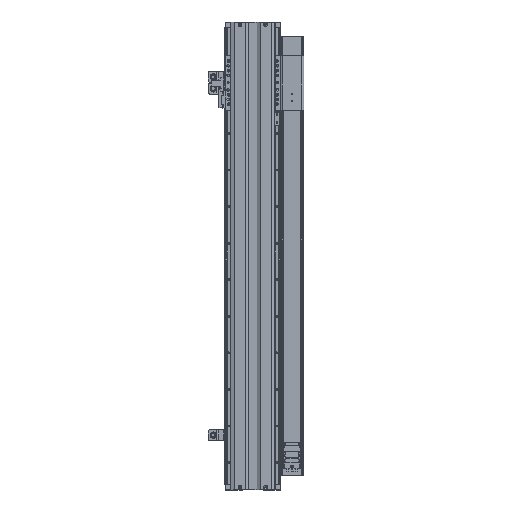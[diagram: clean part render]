
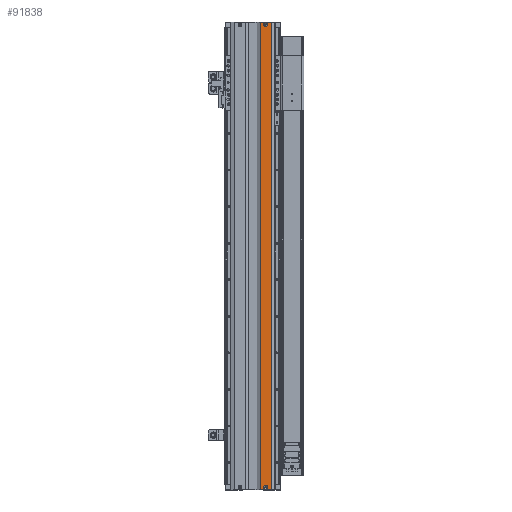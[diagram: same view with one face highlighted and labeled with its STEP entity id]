
A CAD part, top view. The second image highlights one B-rep face of the part: STEP entity #91838.
In plain terms, the highlighted planar face has unit normal (0, 0, 1).
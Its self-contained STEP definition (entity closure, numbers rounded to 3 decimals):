
#4751=FACE_BOUND('',#14526,.T.);
#4752=FACE_BOUND('',#14527,.T.);
#5651=PLANE('',#99017);
#9142=FACE_OUTER_BOUND('',#14525,.T.);
#14525=EDGE_LOOP('',(#66969,#66970,#66971,#66972));
#14526=EDGE_LOOP('',(#66973,#66974));
#14527=EDGE_LOOP('',(#66975,#66976));
#20425=LINE('',#137993,#28978);
#20433=LINE('',#138009,#28986);
#20443=LINE('',#138027,#28996);
#20446=LINE('',#138033,#28999);
#28978=VECTOR('',#111776,10.);
#28986=VECTOR('',#111790,10.);
#28996=VECTOR('',#111804,10.);
#28999=VECTOR('',#111813,10.);
#37160=CIRCLE('',#98965,5.2);
#37161=CIRCLE('',#98966,5.2);
#37168=CIRCLE('',#98976,5.2);
#37169=CIRCLE('',#98977,5.2);
#41339=VERTEX_POINT('',#137865);
#41340=VERTEX_POINT('',#137866);
#41347=VERTEX_POINT('',#137887);
#41348=VERTEX_POINT('',#137888);
#41386=VERTEX_POINT('',#137990);
#41387=VERTEX_POINT('',#137992);
#41391=VERTEX_POINT('',#138006);
#41392=VERTEX_POINT('',#138008);
#50767=EDGE_CURVE('',#41339,#41340,#37160,.T.);
#50768=EDGE_CURVE('',#41340,#41339,#37161,.T.);
#50778=EDGE_CURVE('',#41347,#41348,#37168,.T.);
#50779=EDGE_CURVE('',#41348,#41347,#37169,.T.);
#50830=EDGE_CURVE('',#41386,#41387,#20425,.T.);
#50838=EDGE_CURVE('',#41392,#41391,#20433,.T.);
#50848=EDGE_CURVE('',#41386,#41392,#20443,.T.);
#50851=EDGE_CURVE('',#41391,#41387,#20446,.T.);
#66969=ORIENTED_EDGE('',*,*,#50848,.T.);
#66970=ORIENTED_EDGE('',*,*,#50838,.T.);
#66971=ORIENTED_EDGE('',*,*,#50851,.T.);
#66972=ORIENTED_EDGE('',*,*,#50830,.F.);
#66973=ORIENTED_EDGE('',*,*,#50767,.T.);
#66974=ORIENTED_EDGE('',*,*,#50768,.T.);
#66975=ORIENTED_EDGE('',*,*,#50778,.T.);
#66976=ORIENTED_EDGE('',*,*,#50779,.T.);
#91838=ADVANCED_FACE('',(#9142,#4751,#4752),#5651,.T.);
#98965=AXIS2_PLACEMENT_3D('',#137867,#111657,#111658);
#98966=AXIS2_PLACEMENT_3D('',#137868,#111659,#111660);
#98976=AXIS2_PLACEMENT_3D('',#137889,#111682,#111683);
#98977=AXIS2_PLACEMENT_3D('',#137890,#111684,#111685);
#99017=AXIS2_PLACEMENT_3D('',#138041,#111825,#111826);
#111657=DIRECTION('center_axis',(0.,0.,-1.));
#111658=DIRECTION('ref_axis',(-1.,0.,0.));
#111659=DIRECTION('center_axis',(0.,0.,-1.));
#111660=DIRECTION('ref_axis',(-1.,0.,0.));
#111682=DIRECTION('center_axis',(0.,0.,-1.));
#111683=DIRECTION('ref_axis',(-1.,0.,0.));
#111684=DIRECTION('center_axis',(0.,0.,-1.));
#111685=DIRECTION('ref_axis',(-1.,0.,0.));
#111776=DIRECTION('',(1.,0.,0.));
#111790=DIRECTION('',(1.,0.,0.));
#111804=DIRECTION('',(0.,-1.,0.));
#111813=DIRECTION('',(0.,1.,0.));
#111825=DIRECTION('center_axis',(0.,0.,1.));
#111826=DIRECTION('ref_axis',(1.,0.,0.));
#137865=CARTESIAN_POINT('',(29.8,7.5,4.5));
#137866=CARTESIAN_POINT('',(40.2,7.5,4.5));
#137867=CARTESIAN_POINT('Origin',(35.,7.5,4.5));
#137868=CARTESIAN_POINT('Origin',(35.,7.5,4.5));
#137887=CARTESIAN_POINT('',(29.8,1272.5,4.5));
#137888=CARTESIAN_POINT('',(40.2,1272.5,4.5));
#137889=CARTESIAN_POINT('Origin',(35.,1272.5,4.5));
#137890=CARTESIAN_POINT('Origin',(35.,1272.5,4.5));
#137990=CARTESIAN_POINT('',(20.895,1280.,4.5));
#137992=CARTESIAN_POINT('',(51.,1280.,4.5));
#137993=CARTESIAN_POINT('',(-59.5,1280.,4.5));
#138006=CARTESIAN_POINT('',(51.,0.,4.5));
#138008=CARTESIAN_POINT('',(20.895,0.,4.5));
#138009=CARTESIAN_POINT('',(-59.5,0.,4.5));
#138027=CARTESIAN_POINT('',(20.895,0.,4.5));
#138033=CARTESIAN_POINT('',(51.,0.,4.5));
#138041=CARTESIAN_POINT('Origin',(-59.5,0.,4.5));
